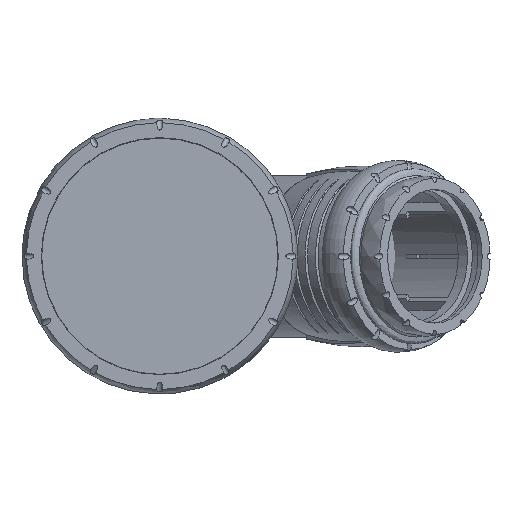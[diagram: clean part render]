
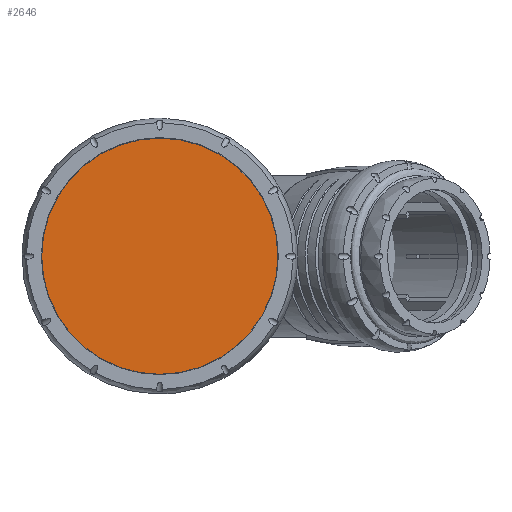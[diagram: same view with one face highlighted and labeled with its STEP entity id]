
A CAD part, top view. The second image highlights one B-rep face of the part: STEP entity #2646.
In plain terms, the highlighted planar face has unit normal (0, 0, 1).
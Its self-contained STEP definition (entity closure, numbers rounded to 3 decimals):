
#377=PLANE('',#2837);
#501=FACE_OUTER_BOUND('',#666,.T.);
#666=EDGE_LOOP('',(#1685));
#875=CIRCLE('',#2838,80.6);
#1011=VERTEX_POINT('',#3902);
#1288=EDGE_CURVE('',#1011,#1011,#875,.T.);
#1685=ORIENTED_EDGE('',*,*,#1288,.T.);
#2646=ADVANCED_FACE('',(#501),#377,.T.);
#2837=AXIS2_PLACEMENT_3D('',#3901,#3162,#3163);
#2838=AXIS2_PLACEMENT_3D('',#3903,#3164,#3165);
#3162=DIRECTION('center_axis',(0.,0.,
1.));
#3163=DIRECTION('ref_axis',(0.,1.,0.));
#3164=DIRECTION('center_axis',(0.,0.,
1.));
#3165=DIRECTION('ref_axis',(0.,1.,0.));
#3901=CARTESIAN_POINT('Origin',(0.,0.,
257.87));
#3902=CARTESIAN_POINT('',(-80.6,0.,257.87));
#3903=CARTESIAN_POINT('Origin',(0.,0.,
257.87));
